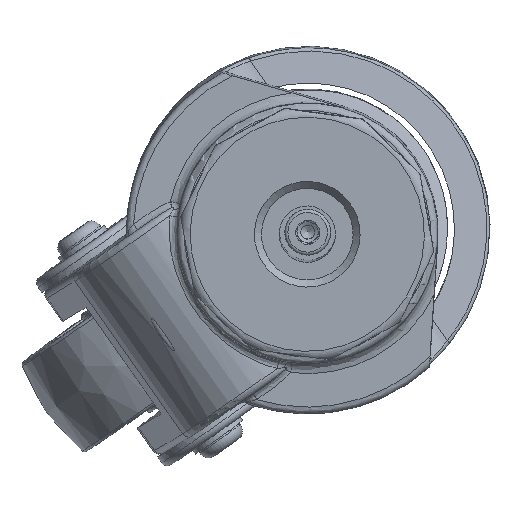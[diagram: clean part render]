
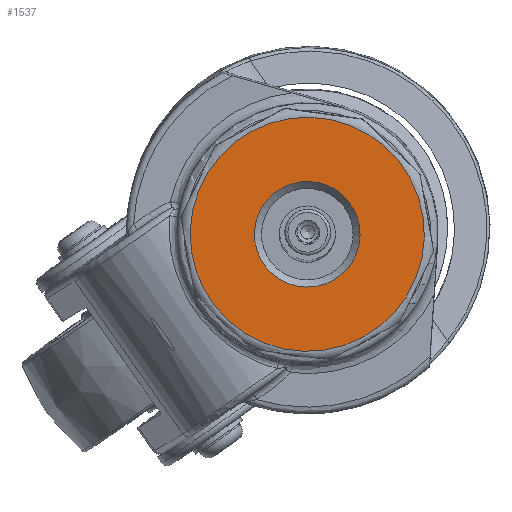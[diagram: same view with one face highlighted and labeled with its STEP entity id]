
A CAD part, top view. The second image highlights one B-rep face of the part: STEP entity #1537.
In plain terms, the highlighted planar face has unit normal (-0.004, -0.023, 1).
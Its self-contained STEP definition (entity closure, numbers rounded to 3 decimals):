
#1494=CARTESIAN_POINT('',(75.64,120.491,51.331));
#1495=VERTEX_POINT('',#1494);
#1496=CARTESIAN_POINT('',(104.942,136.197,51.815));
#1497=DIRECTION('',(0.004,0.023,-1.));
#1498=DIRECTION('',(0.881,0.472,0.015));
#1499=AXIS2_PLACEMENT_3D('',#1496,#1497,#1498);
#1500=CIRCLE('',#1499,33.25);
#1501=EDGE_CURVE('',#1495,#1495,#1500,.T.);
#1518=CARTESIAN_POINT('',(82.359,124.093,51.442));
#1519=DIRECTION('',(-0.004,-0.023,1.));
#1520=DIRECTION('',(0.473,-0.881,-0.018));
#1521=AXIS2_PLACEMENT_3D('',#1518,#1519,#1520);
#1522=PLANE('',#1521);
#1523=ORIENTED_EDGE('',*,*,#1501,.F.);
#1524=EDGE_LOOP('',(#1523));
#1525=FACE_OUTER_BOUND('',#1524,.T.);
#1526=CARTESIAN_POINT('',(91.723,129.111,51.597));
#1527=VERTEX_POINT('',#1526);
#1528=CARTESIAN_POINT('',(104.942,136.197,51.815));
#1529=DIRECTION('',(-0.004,-0.023,1.));
#1530=DIRECTION('',(-0.881,-0.472,-0.015));
#1531=AXIS2_PLACEMENT_3D('',#1528,#1529,#1530);
#1532=CIRCLE('',#1531,15.);
#1533=EDGE_CURVE('',#1527,#1527,#1532,.T.);
#1534=ORIENTED_EDGE('',*,*,#1533,.F.);
#1535=EDGE_LOOP('',(#1534));
#1536=FACE_BOUND('',#1535,.T.);
#1537=ADVANCED_FACE('',(#1525,#1536),#1522,.T.);
